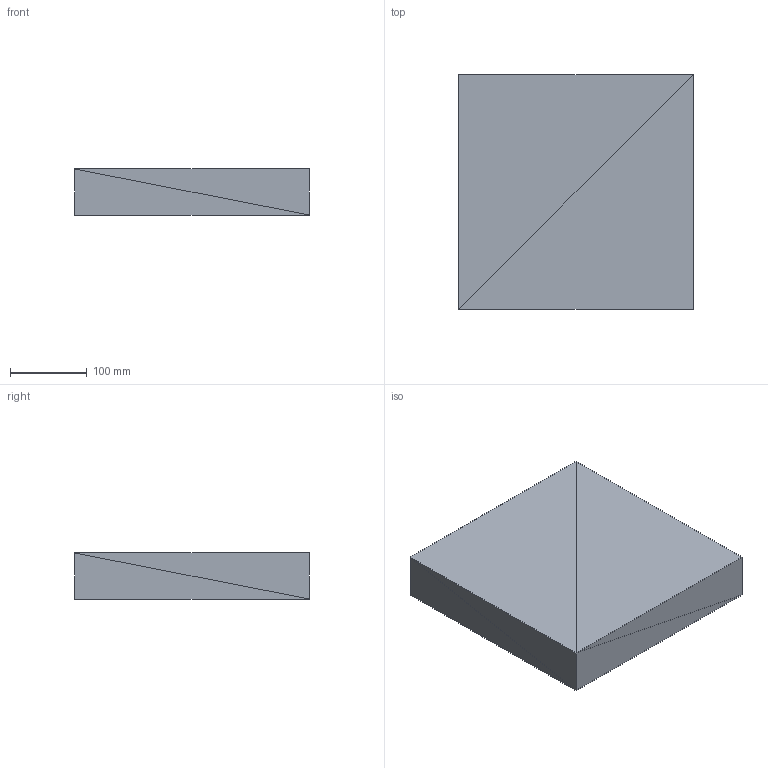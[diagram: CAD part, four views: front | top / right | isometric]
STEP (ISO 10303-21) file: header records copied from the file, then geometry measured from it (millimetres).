
FILE_DESCRIPTION(('ISINAC STEP AP214'),'2;1');
FILE_NAME('ISINAC_C.305_60mm_ADHESIVO','2026-05-03T10:49:19',('ISINAC'),('www.isinac.com'),'ISINAC BIM Generator 1.0','','');
FILE_SCHEMA(('AUTOMOTIVE_DESIGN'));
Length unit declared in the file: millimetre
Products named in the file (1): ISINAC_C.305_60mm_ADHESIVO
Bounding box: 305 x 305 x 60 mm (x, y, z)
Surface area: 259250 mm2 (no closed solid volume)
Topology: 0 solids, 12 shells, 12 faces, 36 edges, 36 vertices
Faces by surface type: plane 12
Entity records: 145 total; most frequent: CARTESIAN_POINT 48, DIRECTION 24, POLY_LOOP 12, FACE_OUTER_BOUND 12, AXIS2_PLACEMENT_3D 12, PLANE 12, FACE_SURFACE 12, CLOSED_SHELL 1
